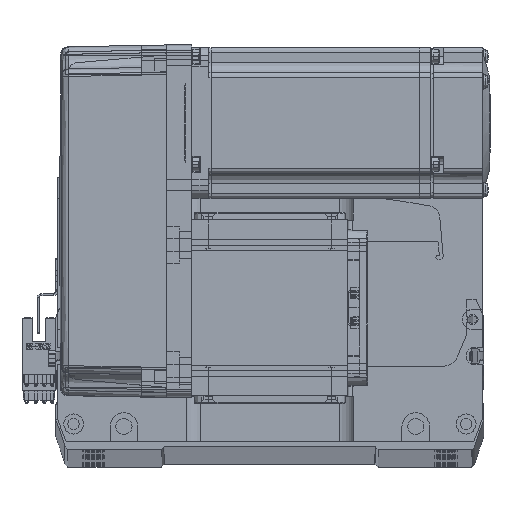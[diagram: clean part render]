
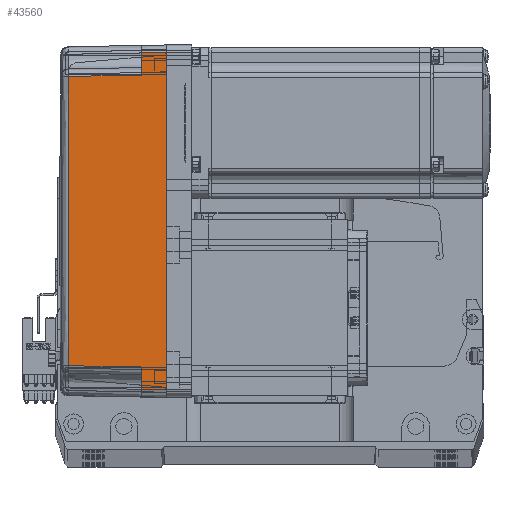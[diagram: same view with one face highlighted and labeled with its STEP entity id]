
A CAD part, top view. The second image highlights one B-rep face of the part: STEP entity #43560.
In plain terms, the highlighted planar face has unit normal (-0.018, 0, 1) as drawn and (0, 1, 0.017) by its records, which use the part's own axes.
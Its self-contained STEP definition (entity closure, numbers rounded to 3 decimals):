
#1334 = CARTESIAN_POINT ( 'NONE',  ( -67., 36., 0. ) ) ;
#3678 = CARTESIAN_POINT ( 'NONE',  ( 70., 36., 0. ) ) ;
#5703 = VERTEX_POINT ( 'NONE', #67701 ) ;
#5823 = VECTOR ( 'NONE', #45487, 1000. ) ;
#6848 = EDGE_CURVE ( 'NONE', #18559, #55333, #45828, .T. ) ;
#7174 = ORIENTED_EDGE ( 'NONE', *, *, #69654, .F. ) ;
#10640 = CARTESIAN_POINT ( 'NONE',  ( 19.165, 35.316, 39.181 ) ) ;
#10902 = CARTESIAN_POINT ( 'NONE',  ( -66.826, 35.825, 10. ) ) ;
#12665 = ORIENTED_EDGE ( 'NONE', *, *, #26398, .T. ) ;
#13805 = LINE ( 'NONE', #49380, #25582 ) ;
#13821 = VERTEX_POINT ( 'NONE', #23441 ) ;
#13824 = LINE ( 'NONE', #70669, #73484 ) ;
#18031 = ORIENTED_EDGE ( 'NONE', *, *, #38535, .T. ) ;
#18559 = VERTEX_POINT ( 'NONE', #10902 ) ;
#22577 = CARTESIAN_POINT ( 'NONE',  ( 70., 35.825, 10. ) ) ;
#23441 = CARTESIAN_POINT ( 'NONE',  ( 66.826, 35.825, 10. ) ) ;
#25582 = VECTOR ( 'NONE', #39452, 1000. ) ;
#26279 = EDGE_CURVE ( 'NONE', #59608, #5703, #73910, .T. ) ;
#26398 = EDGE_CURVE ( 'NONE', #66022, #13821, #53989, .T. ) ;
#28680 = DIRECTION ( 'NONE',  ( 1., 0., 0. ) ) ;
#29575 = CARTESIAN_POINT ( 'NONE',  ( -57.495, 35.32, 38.985 ) ) ;
#30412 = VECTOR ( 'NONE', #51137, 1000. ) ;
#31710 = PLANE ( 'NONE',  #52387 ) ;
#32377 = DIRECTION ( 'NONE',  ( -0.017, -0.017, 1. ) ) ;
#36600 = DIRECTION ( 'NONE',  ( 0.017, 0.017, -1. ) ) ;
#37061 = ORIENTED_EDGE ( 'NONE', *, *, #68823, .T. ) ;
#38312 = LINE ( 'NONE', #55113, #49229 ) ;
#38535 = EDGE_CURVE ( 'NONE', #61376, #44395, #66461, .T. ) ;
#39452 = DIRECTION ( 'NONE',  ( 0.017, -0.017, 1. ) ) ;
#40430 = CARTESIAN_POINT ( 'NONE',  ( 57.495, 35.32, 38.985 ) ) ;
#43560 = ADVANCED_FACE ( 'NONE', ( #54544 ), #31710, .T. ) ;
#43708 = CARTESIAN_POINT ( 'NONE',  ( -58., 35.825, 10. ) ) ;
#44093 = DIRECTION ( 'NONE',  ( 0., 1., 0.017 ) ) ;
#44395 = VERTEX_POINT ( 'NONE', #40430 ) ;
#45068 = CARTESIAN_POINT ( 'NONE',  ( -19.165, 35.316, 39.181 ) ) ;
#45487 = DIRECTION ( 'NONE',  ( 0.017, -0.017, 1. ) ) ;
#45737 = CARTESIAN_POINT ( 'NONE',  ( -67., 36., 0. ) ) ;
#45828 = LINE ( 'NONE', #62890, #30412 ) ;
#49229 = VECTOR ( 'NONE', #32377, 1000. ) ;
#49380 = CARTESIAN_POINT ( 'NONE',  ( -58., 35.825, 10. ) ) ;
#50880 = CARTESIAN_POINT ( 'NONE',  ( 57.495, 35.32, 38.985 ) ) ;
#51137 = DIRECTION ( 'NONE',  ( 1., 0., 0. ) ) ;
#51189 = CARTESIAN_POINT ( 'NONE',  ( 0., 36., 0. ) ) ;
#52387 = AXIS2_PLACEMENT_3D ( 'NONE', #3678, #44093, #66998 ) ;
#53113 = VECTOR ( 'NONE', #28680, 1000. ) ;
#53989 = LINE ( 'NONE', #22577, #53113 ) ;
#54544 = FACE_OUTER_BOUND ( 'NONE', #56862, .T. ) ;
#55113 = CARTESIAN_POINT ( 'NONE',  ( 67.001, 36.001, -0.052 ) ) ;
#55333 = VERTEX_POINT ( 'NONE', #43708 ) ;
#56656 = CARTESIAN_POINT ( 'NONE',  ( -57.495, 35.32, 38.985 ) ) ;
#56862 = EDGE_LOOP ( 'NONE', ( #37061, #63791, #66791, #18031, #70163, #12665, #7174, #67995 ) ) ;
#59608 = VERTEX_POINT ( 'NONE', #1334 ) ;
#61376 = VERTEX_POINT ( 'NONE', #29575 ) ;
#62890 = CARTESIAN_POINT ( 'NONE',  ( 70., 35.825, 10. ) ) ;
#63791 = ORIENTED_EDGE ( 'NONE', *, *, #6848, .T. ) ;
#66022 = VERTEX_POINT ( 'NONE', #71592 ) ;
#66461 = B_SPLINE_CURVE_WITH_KNOTS ( 'NONE', 3,
 ( #56656, #45068, #10640, #50880 ),
 .UNSPECIFIED., .F., .F.,
 ( 4, 4 ),
 ( 0., 1. ),
 .UNSPECIFIED. ) ;
#66791 = ORIENTED_EDGE ( 'NONE', *, *, #72390, .T. ) ;
#66998 = DIRECTION ( 'NONE',  ( 0., -0.017, 1. ) ) ;
#67701 = CARTESIAN_POINT ( 'NONE',  ( 67., 36., 0. ) ) ;
#67995 = ORIENTED_EDGE ( 'NONE', *, *, #26279, .F. ) ;
#68823 = EDGE_CURVE ( 'NONE', #59608, #18559, #73579, .T. ) ;
#69654 = EDGE_CURVE ( 'NONE', #5703, #13821, #38312, .T. ) ;
#70078 = EDGE_CURVE ( 'NONE', #44395, #66022, #13824, .T. ) ;
#70163 = ORIENTED_EDGE ( 'NONE', *, *, #70078, .T. ) ;
#70669 = CARTESIAN_POINT ( 'NONE',  ( 57.495, 35.32, 38.985 ) ) ;
#71592 = CARTESIAN_POINT ( 'NONE',  ( 58., 35.825, 10. ) ) ;
#72390 = EDGE_CURVE ( 'NONE', #55333, #61376, #13805, .T. ) ;
#73484 = VECTOR ( 'NONE', #36600, 1000. ) ;
#73579 = LINE ( 'NONE', #45737, #5823 ) ;
#73860 = DIRECTION ( 'NONE',  ( 1., 0., 0. ) ) ;
#73910 = LINE ( 'NONE', #51189, #74850 ) ;
#74850 = VECTOR ( 'NONE', #73860, 1000. ) ;
